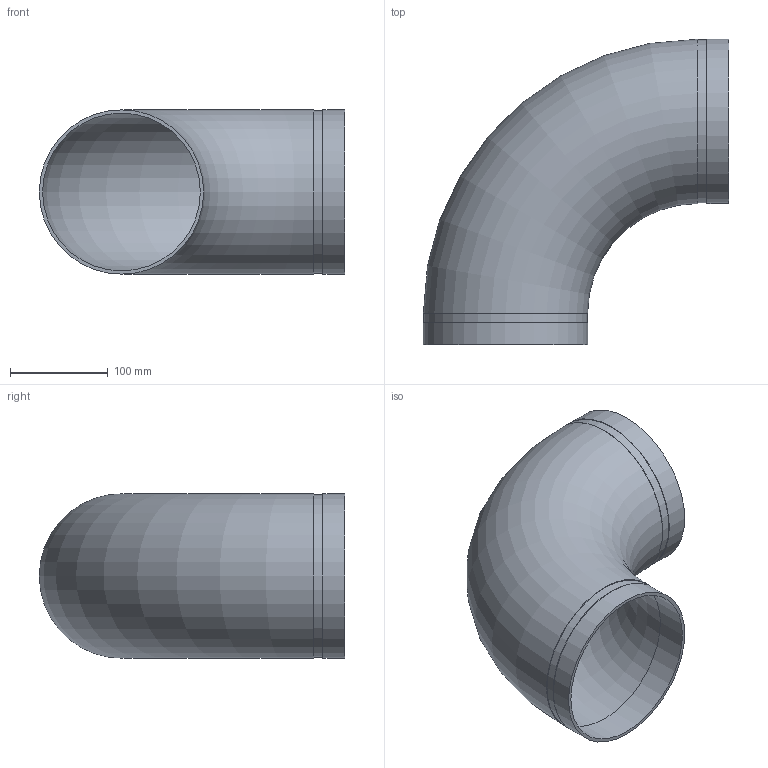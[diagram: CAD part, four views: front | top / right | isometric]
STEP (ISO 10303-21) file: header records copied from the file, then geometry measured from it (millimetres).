
FILE_DESCRIPTION(/* description */ ('VIC 90 DEG ELBOW STYLE 401DX','CAx-IF Rec.Pracs.---Representation and Presentation of Product Manufacturing Information (PMI)---4.0---2014-10-13'),/* implementation_level */ '2;1');
FILE_NAME(/* name */ 'C:\Users\kkamble\AppData\Roaming\Autodesk\ApplicationPlugins\Back Up\Victaulic_SS-StrengThin_Elbow 90 Deg_No 401DX (STG)\Victaulic_SS-StrengThin_Elbow 90 Deg_No 401DX (STG)_6 (150).stp',/* time_stamp */ '2020-08-17T13:28:18+06:00',/* author */ ('cps_temp'),/* organization */ ('Victaulic'),/* preprocessor_version */ 'ST-DEVELOPER v17.2',/* originating_system */ 'Autodesk Inventor 2019',/* authorisation */ '');
FILE_SCHEMA (('AP242_MANAGED_MODEL_BASED_3D_ENGINEERING_MIM_LF { 1 0 10303 442 1 1 4 }'));
Length unit declared in the file: inch
Products named in the file (1): 401DX-06.0
Bounding box: 312.74 x 312.74 x 168.28 mm (x, y, z)
Volume: 650787.1 mm3; surface area: 390942.2 mm2
Topology: 1 solids, 1 shells, 14 faces, 30 edges, 22 vertices
Faces by surface type: plane 6, cylinder 6, torus 2
Full cylindrical faces by diameter (mm): 161.468 x2, 167.005 x2, 168.275 x2
Entity records: 556 total; most frequent: DIRECTION 110, CARTESIAN_POINT 84, ORIENTED_EDGE 60, AXIS2_PLACEMENT_3D 52, EDGE_CURVE 30, CIRCLE 24, VERTEX_POINT 22, EDGE_LOOP 20
